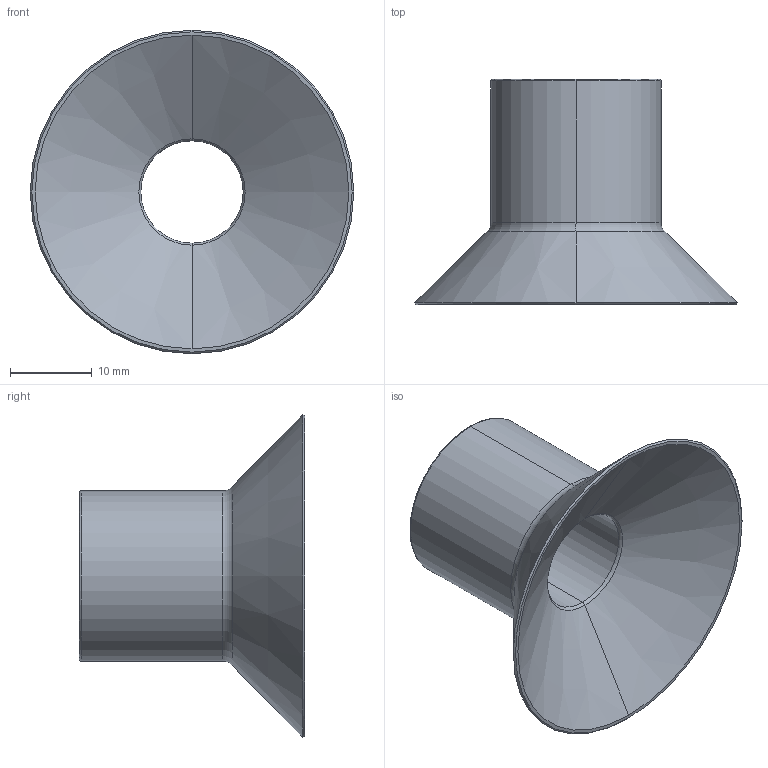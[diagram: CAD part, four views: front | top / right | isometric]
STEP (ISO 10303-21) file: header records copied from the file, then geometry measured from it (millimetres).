
FILE_DESCRIPTION (( 'STEP AP203' ), '1' );
FILE_NAME ('72_40--A.STEP', '2016-10-06T09:19:56', ( '' ), ( '' ), 'SwSTEP 2.0', 'SolidWorks 2016', '' );
FILE_SCHEMA (( 'CONFIG_CONTROL_DESIGN' ));
Length unit declared in the file: millimetre
Products named in the file (1): 72_40--A
Bounding box: 39.5 x 27.5 x 39.5 mm (x, y, z)
Volume: 6471.1 mm3; surface area: 4690.1 mm2
Topology: 1 solids, 1 shells, 18 faces, 36 edges, 20 vertices
Faces by surface type: torus 6, cone 6, cylinder 4, plane 2
Entity records: 551 total; most frequent: DIRECTION 100, CARTESIAN_POINT 75, ORIENTED_EDGE 72, AXIS2_PLACEMENT_3D 45, EDGE_CURVE 36, CIRCLE 26, EDGE_LOOP 20, VERTEX_POINT 20
